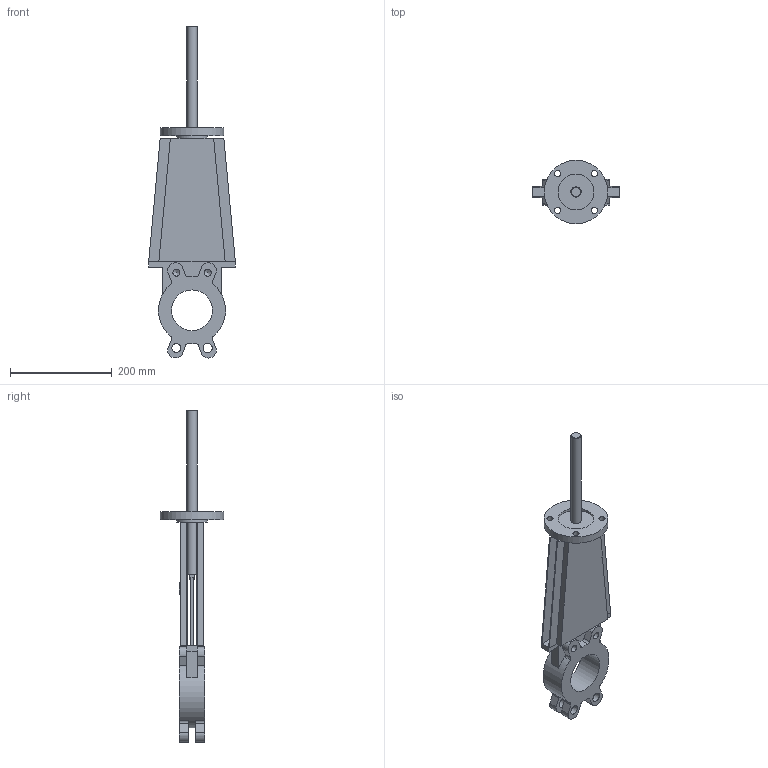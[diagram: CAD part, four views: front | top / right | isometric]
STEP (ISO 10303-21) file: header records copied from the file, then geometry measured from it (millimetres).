
FILE_DESCRIPTION(('STEP AP203'), '1');
FILE_NAME('K21GVA_DN80', '', ('UNSPECIFIED'), ('UNSPECIFIED'), 'ASCON STEP Converter 1.6', 'ASCON Math Kernel', '');
FILE_SCHEMA(('CONFIG_CONTROL_DESIGN'));
Length unit declared in the file: millimetre
Bounding box: 170 x 125 x 651.54 mm (x, y, z)
Volume: 1133476.5 mm3; surface area: 335754.4 mm2
Topology: 1 solids, 1 shells, 151 faces, 418 edges, 269 vertices
Faces by surface type: plane 94, cylinder 52, cone 5
Full cylindrical faces by diameter (mm): 12 x4, 13.835 x4, 18 x4, 20 x2, 60 x1, 70 x1, 80 x1, 125 x1
Entity records: 5958 total; most frequent: DIRECTION 824, CARTESIAN_POINT 808, ORIENTED_EDGE 782, EDGE_CURVE 391, AXIS2_PLACEMENT_3D 281, VERTEX_POINT 265, LINE 262, VECTOR 262
